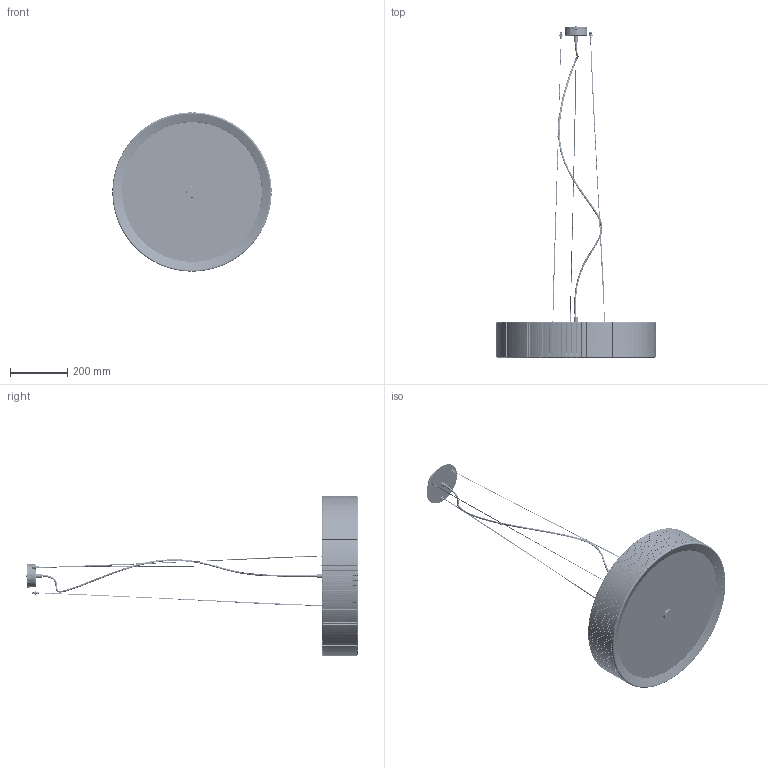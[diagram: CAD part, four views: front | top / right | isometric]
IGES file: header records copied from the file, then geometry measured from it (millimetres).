
Start section: SolidWorks IGES file using analytic representation for surfaces
Global section: file name: E:\3D lampy\Alehandro\Alehandro_5345,5353.IGS; native system: SolidWorks 2016; preprocessor: SolidWorks 2016; author: Asia; date: 170510.101204; units: millimetre
Bounding box: 557.71 x 1162.13 x 557.71 mm (x, y, z)
Surface area: 1990558.7 mm2 (no closed solid volume)
Topology: 0 solids, 0 shells, 7846 faces, 41168 edges, 41150 vertices
Faces by surface type: bspline 7280, revolution 566
